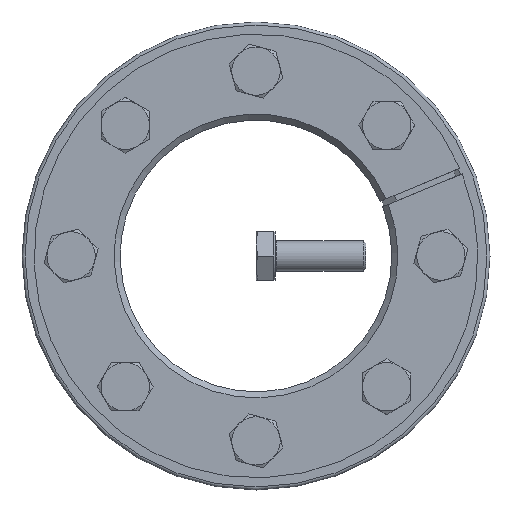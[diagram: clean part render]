
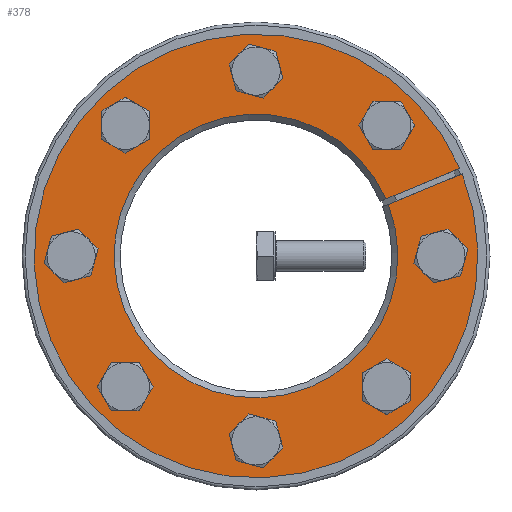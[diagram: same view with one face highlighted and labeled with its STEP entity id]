
A CAD part, front view. The second image highlights one B-rep face of the part: STEP entity #378.
In plain terms, the highlighted planar face has unit normal (0, -1, 0).
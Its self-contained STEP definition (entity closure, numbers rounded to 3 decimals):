
#378 = ADVANCED_FACE( '', ( #622, #623, #624, #625, #626, #627, #628, #629, #630 ), #631, .F. );
#622 = FACE_BOUND( '', #768, .T. );
#623 = FACE_BOUND( '', #769, .T. );
#624 = FACE_BOUND( '', #770, .T. );
#625 = FACE_BOUND( '', #771, .T. );
#626 = FACE_OUTER_BOUND( '', #772, .T. );
#627 = FACE_BOUND( '', #773, .T. );
#628 = FACE_BOUND( '', #774, .T. );
#629 = FACE_BOUND( '', #775, .T. );
#630 = FACE_BOUND( '', #776, .T. );
#631 = PLANE( '', #777 );
#768 = EDGE_LOOP( '', ( #1021 ) );
#769 = EDGE_LOOP( '', ( #1022 ) );
#770 = EDGE_LOOP( '', ( #1023 ) );
#771 = EDGE_LOOP( '', ( #1024 ) );
#772 = EDGE_LOOP( '', ( #1025, #1026, #1027, #1028 ) );
#773 = EDGE_LOOP( '', ( #1029 ) );
#774 = EDGE_LOOP( '', ( #1030 ) );
#775 = EDGE_LOOP( '', ( #1031 ) );
#776 = EDGE_LOOP( '', ( #1032 ) );
#777 = AXIS2_PLACEMENT_3D( '', #1033, #1034, #1035 );
#1021 = ORIENTED_EDGE( '', *, *, #1300, .T. );
#1022 = ORIENTED_EDGE( '', *, *, #1301, .T. );
#1023 = ORIENTED_EDGE( '', *, *, #1302, .T. );
#1024 = ORIENTED_EDGE( '', *, *, #1299, .T. );
#1025 = ORIENTED_EDGE( '', *, *, #1282, .T. );
#1026 = ORIENTED_EDGE( '', *, *, #1285, .T. );
#1027 = ORIENTED_EDGE( '', *, *, #1293, .T. );
#1028 = ORIENTED_EDGE( '', *, *, #1277, .F. );
#1029 = ORIENTED_EDGE( '', *, *, #1303, .T. );
#1030 = ORIENTED_EDGE( '', *, *, #1304, .T. );
#1031 = ORIENTED_EDGE( '', *, *, #1305, .T. );
#1032 = ORIENTED_EDGE( '', *, *, #1306, .T. );
#1033 = CARTESIAN_POINT( '', ( 0., 0., 77.5 ) );
#1034 = DIRECTION( '', ( 0., 1., 0. ) );
#1035 = DIRECTION( '', ( 0., 0., 1. ) );
#1277 = EDGE_CURVE( '', #1418, #1420, #1421, .T. );
#1282 = EDGE_CURVE( '', #1418, #1426, #1429, .T. );
#1285 = EDGE_CURVE( '', #1426, #1432, #1434, .T. );
#1293 = EDGE_CURVE( '', #1432, #1420, #1446, .T. );
#1299 = EDGE_CURVE( '', #1453, #1453, #1454, .T. );
#1300 = EDGE_CURVE( '', #1455, #1455, #1456, .T. );
#1301 = EDGE_CURVE( '', #1457, #1457, #1458, .T. );
#1302 = EDGE_CURVE( '', #1459, #1459, #1460, .T. );
#1303 = EDGE_CURVE( '', #1461, #1461, #1462, .T. );
#1304 = EDGE_CURVE( '', #1463, #1463, #1464, .T. );
#1305 = EDGE_CURVE( '', #1465, #1465, #1466, .T. );
#1306 = EDGE_CURVE( '', #1467, #1467, #1468, .T. );
#1418 = VERTEX_POINT( '', #1523 );
#1420 = VERTEX_POINT( '', #1528 );
#1421 = LINE( '', #1529, #1530 );
#1426 = VERTEX_POINT( '', #1540 );
#1429 = CIRCLE( '', #1546, 73.5 );
#1432 = VERTEX_POINT( '', #1549 );
#1434 = LINE( '', #1554, #1555 );
#1446 = CIRCLE( '', #1575, 47. );
#1453 = VERTEX_POINT( '', #1584 );
#1454 = CIRCLE( '', #1585, 5. );
#1455 = VERTEX_POINT( '', #1586 );
#1456 = CIRCLE( '', #1587, 5. );
#1457 = VERTEX_POINT( '', #1588 );
#1458 = CIRCLE( '', #1589, 5. );
#1459 = VERTEX_POINT( '', #1590 );
#1460 = CIRCLE( '', #1591, 5. );
#1461 = VERTEX_POINT( '', #1592 );
#1462 = CIRCLE( '', #1593, 5. );
#1463 = VERTEX_POINT( '', #1594 );
#1464 = CIRCLE( '', #1595, 5. );
#1465 = VERTEX_POINT( '', #1596 );
#1466 = CIRCLE( '', #1597, 5. );
#1467 = VERTEX_POINT( '', #1598 );
#1468 = CIRCLE( '', #1599, 5. );
#1523 = CARTESIAN_POINT( '', ( 67.516, 0., 29.049 ) );
#1528 = CARTESIAN_POINT( '', ( 43.03, 0., 18.906 ) );
#1529 = CARTESIAN_POINT( '', ( 67.522, 0., 29.051 ) );
#1530 = VECTOR( '', #1642, 1000. );
#1540 = CARTESIAN_POINT( '', ( 68.282, 0., 27.201 ) );
#1546 = AXIS2_PLACEMENT_3D( '', #1645, #1646, #1647 );
#1549 = CARTESIAN_POINT( '', ( 43.795, 0., 17.058 ) );
#1554 = CARTESIAN_POINT( '', ( 68.288, 0., 27.203 ) );
#1555 = VECTOR( '', #1651, 1000. );
#1575 = AXIS2_PLACEMENT_3D( '', #1660, #1661, #1662 );
#1584 = CARTESIAN_POINT( '', ( 61.25, 0., -5. ) );
#1585 = AXIS2_PLACEMENT_3D( '', #1674, #1675, #1676 );
#1586 = CARTESIAN_POINT( '', ( -5., 0., -61.25 ) );
#1587 = AXIS2_PLACEMENT_3D( '', #1677, #1678, #1679 );
#1588 = CARTESIAN_POINT( '', ( -61.25, 0., 5. ) );
#1589 = AXIS2_PLACEMENT_3D( '', #1680, #1681, #1682 );
#1590 = CARTESIAN_POINT( '', ( 5., 0., 61.25 ) );
#1591 = AXIS2_PLACEMENT_3D( '', #1683, #1684, #1685 );
#1592 = CARTESIAN_POINT( '', ( 46.846, 0., 39.775 ) );
#1593 = AXIS2_PLACEMENT_3D( '', #1686, #1687, #1688 );
#1594 = CARTESIAN_POINT( '', ( -39.775, 0., 46.846 ) );
#1595 = AXIS2_PLACEMENT_3D( '', #1689, #1690, #1691 );
#1596 = CARTESIAN_POINT( '', ( -46.846, 0., -39.775 ) );
#1597 = AXIS2_PLACEMENT_3D( '', #1692, #1693, #1694 );
#1598 = CARTESIAN_POINT( '', ( 39.775, 0., -46.846 ) );
#1599 = AXIS2_PLACEMENT_3D( '', #1695, #1696, #1697 );
#1642 = DIRECTION( '', ( -0.924, 0., -0.383 ) );
#1645 = CARTESIAN_POINT( '', ( 0., 0., 0. ) );
#1646 = DIRECTION( '', ( 0., -1., 0. ) );
#1647 = DIRECTION( '', ( 0., 0., -1. ) );
#1651 = DIRECTION( '', ( -0.924, 0., -0.383 ) );
#1660 = CARTESIAN_POINT( '', ( 0., 0., 0. ) );
#1661 = DIRECTION( '', ( 0., 1., 0. ) );
#1662 = DIRECTION( '', ( 0., 0., 1. ) );
#1674 = CARTESIAN_POINT( '', ( 61.25, 0., 0. ) );
#1675 = DIRECTION( '', ( 0., 1., 0. ) );
#1676 = DIRECTION( '', ( 0., 0., -1. ) );
#1677 = CARTESIAN_POINT( '', ( 0., 0., -61.25 ) );
#1678 = DIRECTION( '', ( 0., 1., 0. ) );
#1679 = DIRECTION( '', ( -1., 0., 0. ) );
#1680 = CARTESIAN_POINT( '', ( -61.25, 0., 0. ) );
#1681 = DIRECTION( '', ( 0., 1., 0. ) );
#1682 = DIRECTION( '', ( 0., 0., 1. ) );
#1683 = CARTESIAN_POINT( '', ( 0., 0., 61.25 ) );
#1684 = DIRECTION( '', ( 0., 1., 0. ) );
#1685 = DIRECTION( '', ( 1., 0., 0. ) );
#1686 = CARTESIAN_POINT( '', ( 43.31, 0., 43.31 ) );
#1687 = DIRECTION( '', ( 0., 1., 0. ) );
#1688 = DIRECTION( '', ( 0.707, 0., -0.707 ) );
#1689 = CARTESIAN_POINT( '', ( -43.31, 0., 43.31 ) );
#1690 = DIRECTION( '', ( 0., 1., 0. ) );
#1691 = DIRECTION( '', ( 0.707, 0., 0.707 ) );
#1692 = CARTESIAN_POINT( '', ( -43.31, 0., -43.31 ) );
#1693 = DIRECTION( '', ( 0., 1., 0. ) );
#1694 = DIRECTION( '', ( -0.707, 0., 0.707 ) );
#1695 = CARTESIAN_POINT( '', ( 43.31, 0., -43.31 ) );
#1696 = DIRECTION( '', ( 0., 1., 0. ) );
#1697 = DIRECTION( '', ( -0.707, 0., -0.707 ) );
